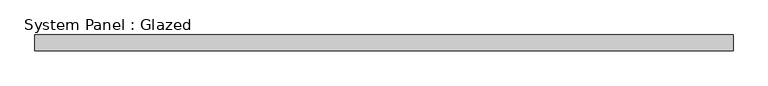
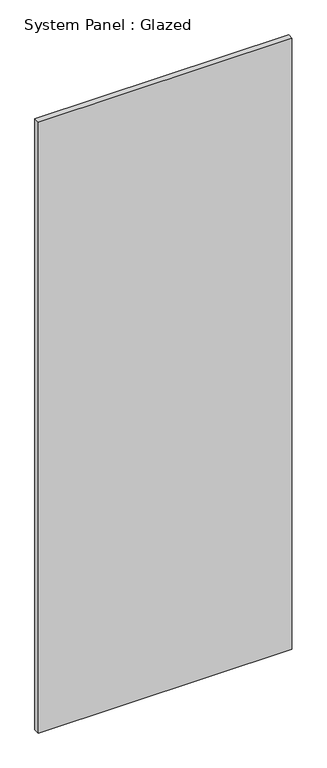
"""IFC4 building model written with IfcOpenShell, lengths in millimetres: plate geometry, System Panel : Glazed."""

import ifcopenshell
import ifcopenshell.guid

model = None  # the IFC model being written
_history = None  # IfcOwnerHistory: only IFC2X3 demands one
_inside = {}  # id of a spatial element -> (the spatial element, [elements in it])
_under = {}  # id of a project, library or spatial element -> (it, [spatial elements below it])
_declared = {}  # id of a project -> (the project, [libraries it declares])
_typed = {}  # id of a type object -> (the type object, [elements of that type])
_made_of = {}  # id of a material, layer set ... -> (it, [elements and type objects made of it])


def new_model(schema):
    """Start an empty IFC model of exactly this schema.

    Asked for "IFC4X3", IfcOpenShell would pick the latest addendum, in which some entities
    have other attributes; the version numbers below select the first issue.
    IFC2X3 requires an IfcOwnerHistory on every rooted entity: one is made here for all.
    """
    global model, _history
    if schema == "IFC4X3":
        model = ifcopenshell.file(schema_version=(4, 3, 0, 0))
    else:
        model = ifcopenshell.file(schema=schema)
    _inside.clear()
    _under.clear()
    _declared.clear()
    _typed.clear()
    _made_of.clear()
    _history = None
    if model.schema == "IFC2X3":
        org = make("IfcOrganization", Name="unknown")
        user = make(
            "IfcPersonAndOrganization",
            ThePerson=make("IfcPerson", FamilyName="unknown"),
            TheOrganization=org,
        )
        app = make(
            "IfcApplication",
            ApplicationDeveloper=org,
            Version="unknown",
            ApplicationFullName="unknown",
            ApplicationIdentifier="unknown",
        )
        _history = make(
            "IfcOwnerHistory",
            OwningUser=user,
            OwningApplication=app,
            ChangeAction="ADDED",
            CreationDate=0,
        )
    return model


def make(cls, **values):
    """One entity of the class cls with the attributes given. An attribute that is None is left unset."""
    return model.create_entity(
        cls, **{name: value for name, value in values.items() if value is not None}
    )


def rooted(cls, **values):
    """An entity with a GlobalId (a new one), such as an element, a storey or a relation."""
    return make(cls, GlobalId=ifcopenshell.guid.new(), OwnerHistory=_history, **values)


def si_unit(unit_type, name, prefix=None):
    """IfcSIUnit, for example si_unit("LENGTHUNIT", "METRE", prefix="MILLI")."""
    return make("IfcSIUnit", UnitType=unit_type, Prefix=prefix, Name=name)


def assignment(units):
    """IfcUnitAssignment: the units of a project."""
    return None if units is None else make("IfcUnitAssignment", Units=units)


def point(xyz):
    """IfcCartesianPoint."""
    return None if xyz is None else make("IfcCartesianPoint", Coordinates=xyz)


def direction(xyz):
    """IfcDirection."""
    return None if xyz is None else make("IfcDirection", DirectionRatios=xyz)


def frame(location, z_axis=None, x_axis=None):
    """IfcAxis2Placement3D, a coordinate frame: its origin and axes. An axis left out is left unset."""
    return make(
        "IfcAxis2Placement3D",
        Location=point(location),
        Axis=direction(z_axis),
        RefDirection=direction(x_axis),
    )


def origin():
    """The frame at (0, 0, 0) with its axes left unset."""
    return frame((0.0, 0.0, 0.0))


def origin_with_axes():
    """The frame at (0, 0, 0) with the z axis (0, 0, 1) and the x axis (1, 0, 0) written out."""
    return frame((0.0, 0.0, 0.0), z_axis=(0.0, 0.0, 1.0), x_axis=(1.0, 0.0, 0.0))


def place(relative_to, where):
    """IfcLocalPlacement: puts the frame where relative to a parent placement (None: the world)."""
    return make(
        "IfcLocalPlacement", PlacementRelTo=relative_to, RelativePlacement=where
    )


def context(
    kind, dimensions, precision=None, world=None, true_north=None, identifier=None
):
    """IfcGeometricRepresentationContext, for example the 3D "Model" context."""
    return make(
        "IfcGeometricRepresentationContext",
        ContextIdentifier=identifier,
        ContextType=kind,
        CoordinateSpaceDimension=dimensions,
        Precision=precision,
        WorldCoordinateSystem=world,
        TrueNorth=true_north,
    )


def project(units=None, contexts=None):
    """IfcProject with its units and contexts."""
    return rooted(
        "IfcProject",
        Name="project",
        RepresentationContexts=contexts,
        UnitsInContext=assignment(units),
    )


def spatial(cls, under=None, at=None, **own):
    """A site, building, storey or space (cls), placed at a placement, below another one or the project."""
    s = rooted(cls, ObjectPlacement=at, **own)
    if under is not None:
        _under.setdefault(under.id(), (under, []))[1].append(s)
    return s


def polyline(points):
    """IfcPolyline through the points."""
    return make("IfcPolyline", Points=[point(p) for p in points])


def outline(outer, holes=None, kind="AREA"):
    """IfcArbitraryClosedProfileDef: a profile drawn as a closed curve; with holes, ...WithVoids."""
    if holes is None:
        return make("IfcArbitraryClosedProfileDef", ProfileType=kind, OuterCurve=outer)
    return make(
        "IfcArbitraryProfileDefWithVoids",
        ProfileType=kind,
        OuterCurve=outer,
        InnerCurves=holes,
    )


def extrude(swept, where, along, depth):
    """IfcExtrudedAreaSolid: the profile swept, set in the frame where, extruded along a direction by depth."""
    return make(
        "IfcExtrudedAreaSolid",
        SweptArea=swept,
        Position=where,
        ExtrudedDirection=direction(along),
        Depth=depth,
    )


def shape(context_of_items, identifier, shape_type, items):
    """IfcShapeRepresentation: the items that make up one representation, for example the "Body"."""
    return make(
        "IfcShapeRepresentation",
        ContextOfItems=context_of_items,
        RepresentationIdentifier=identifier,
        RepresentationType=shape_type,
        Items=items,
    )


def source(mapping_origin, context_of_items, identifier, shape_type, items):
    """IfcRepresentationMap: a shape defined once, which mapped items show again and again."""
    return make(
        "IfcRepresentationMap",
        MappingOrigin=mapping_origin,
        MappedRepresentation=shape(context_of_items, identifier, shape_type, items),
    )


def transform(
    local_origin,
    x_axis=None,
    y_axis=None,
    z_axis=None,
    scale=None,
    scale2=None,
    scale3=None,
    uniform=True,
):
    """IfcCartesianTransformationOperator3D, or its non-uniform kind. x_axis, y_axis, z_axis: its Axis1, 2, 3."""
    if uniform:
        return make(
            "IfcCartesianTransformationOperator3D",
            Axis1=direction(x_axis),
            Axis2=direction(y_axis),
            LocalOrigin=point(local_origin),
            Scale=scale,
            Axis3=direction(z_axis),
        )
    return make(
        "IfcCartesianTransformationOperator3DnonUniform",
        Axis1=direction(x_axis),
        Axis2=direction(y_axis),
        LocalOrigin=point(local_origin),
        Scale=scale,
        Axis3=direction(z_axis),
        Scale2=scale2,
        Scale3=scale3,
    )


def mapped(mapping_source, mapping_target):
    """IfcMappedItem: shows the shape of a source again, moved by a transform."""
    return make(
        "IfcMappedItem", MappingSource=mapping_source, MappingTarget=mapping_target
    )


def made_of(thing, what):
    """Note that an element or type object is made of a material, layer set ...; save() writes the relation."""
    if what is not None:
        _made_of.setdefault(what.id(), (what, []))[1].append(thing)
    return thing


def element(
    cls,
    number,
    at=None,
    inside=None,
    cuts=None,
    type_object=None,
    material=None,
    context=None,
    identifier="Body",
    shape_type=None,
    held_by="IfcProductDefinitionShape",
    body=None,
    shapes=None,
    **own,
):
    """One element of the class cls, such as IfcWall. Its Tag is "e" and its number.

    at: its placement. inside: the storey or other place that contains it. cuts: it is an
    opening in that element (IfcRelVoidsElement). A single representation is given by context,
    identifier, shape_type and body (its items); several are given by shapes. held_by: the class
    of the entity that holds the representations. save() writes the other relations.
    """
    e = rooted(cls, Tag="e%d" % number, ObjectPlacement=at, **own)
    if body is not None:
        shapes = [shape(context, identifier, shape_type, body)]
    if shapes is not None:
        e.Representation = make(held_by, Representations=shapes)
    if inside is not None:
        _inside.setdefault(inside.id(), (inside, []))[1].append(e)
    if cuts is not None:
        rooted(
            "IfcRelVoidsElement", RelatingBuildingElement=cuts, RelatedOpeningElement=e
        )
    if type_object is not None:
        _typed.setdefault(type_object.id(), (type_object, []))[1].append(e)
    return made_of(e, material)


def aggregate(whole, parts):
    """IfcRelAggregates: a whole, such as a stair, and the parts it consists of."""
    return rooted("IfcRelAggregates", RelatingObject=whole, RelatedObjects=parts)


def save(model, path):
    """Write the relations noted so far, then the file.

    IfcRelAggregates (storeys below a building ...), IfcRelContainedInSpatialStructure (elements
    in a storey), IfcRelDefinesByType, IfcRelAssociatesMaterial and IfcRelDeclares: one each for
    every whole, place, type object, material and project.
    """
    for whole, parts in _under.values():
        aggregate(whole, parts)
    for where, things in _inside.values():
        rooted(
            "IfcRelContainedInSpatialStructure",
            RelatedElements=things,
            RelatingStructure=where,
        )
    for kind, things in _typed.values():
        rooted("IfcRelDefinesByType", RelatedObjects=things, RelatingType=kind)
    for what, things in _made_of.values():
        rooted("IfcRelAssociatesMaterial", RelatedObjects=things, RelatingMaterial=what)
    for by, libraries in _declared.values():
        rooted("IfcRelDeclares", RelatingContext=by, RelatedDefinitions=libraries)
    model.write(path)


def system_panel_glazed_0fdf605c(model_context):
    return source(origin(), model_context, "Body", "SweptSolid", [
        extrude(outline(polyline([(550.0000002, 0.0), (-550.0000002, 0.0), (-550.0000002, 25.0), (550.0000002, 25.0), (550.0000002, 0.0)])), origin_with_axes(), (0.0, 0.0, 1.0), 2800.0),
    ])


if __name__ == "__main__":
    model = new_model("IFC4")
    model_context = context("Model", 3, world=origin())
    ifc_project = project(units=[si_unit("LENGTHUNIT", "METRE", prefix="MILLI")], contexts=[model_context])
    site = spatial("IfcSite", under=ifc_project)
    building = spatial("IfcBuilding", under=site)
    placement = place(None, origin())
    system_panel_glazed_shape = system_panel_glazed_0fdf605c(model_context)
    element("IfcPlate", 1, ObjectType="System Panel : Glazed", at=placement, inside=building, context=model_context, shape_type="MappedRepresentation", body=[
        mapped(system_panel_glazed_shape, transform((0.0, 0.0, 0.0), x_axis=(1.0, 0.0, 0.0), y_axis=(0.0, 1.0, 0.0), z_axis=(0.0, 0.0, 1.0))),
    ])
    save(model, "model.ifc")
